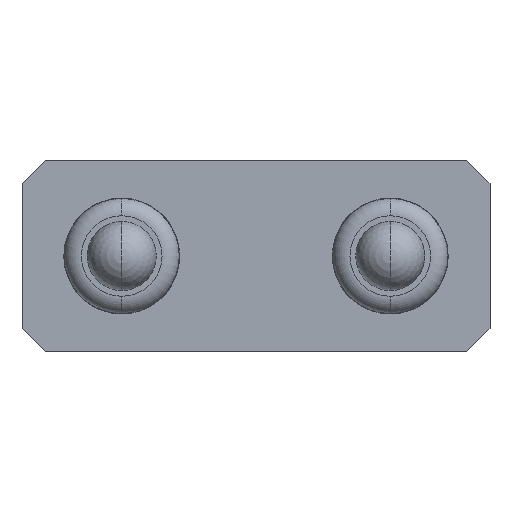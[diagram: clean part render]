
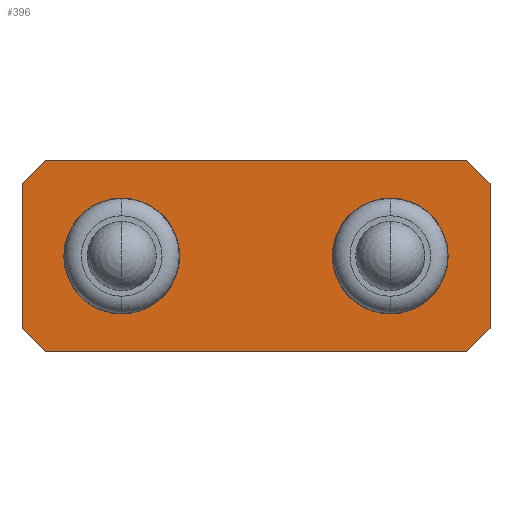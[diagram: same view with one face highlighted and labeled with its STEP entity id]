
A CAD part, left-side view. The second image highlights one B-rep face of the part: STEP entity #396.
In plain terms, the highlighted planar face has unit normal (-1, 0, 0).
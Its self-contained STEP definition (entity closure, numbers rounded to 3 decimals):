
#1=CARTESIAN_POINT('',(0.,-1.75,0.));
#2=DIRECTION('',(-1.,0.,0.));
#3=DIRECTION('',(0.,-1.,0.));
#4=AXIS2_PLACEMENT_3D('',#1,#2,#3);
#6=CARTESIAN_POINT('',(0.,-1.75,0.));
#7=DIRECTION('',(-1.,0.,0.));
#8=DIRECTION('',(0.,1.,0.));
#9=AXIS2_PLACEMENT_3D('',#6,#7,#8);
#11=CARTESIAN_POINT('',(0.,1.75,0.));
#12=DIRECTION('',(-1.,0.,0.));
#13=DIRECTION('',(0.,-1.,0.));
#14=AXIS2_PLACEMENT_3D('',#11,#12,#13);
#16=CARTESIAN_POINT('',(0.,1.75,0.));
#17=DIRECTION('',(-1.,0.,0.));
#18=DIRECTION('',(0.,1.,0.));
#19=AXIS2_PLACEMENT_3D('',#16,#17,#18);
#21=DIRECTION('',(0.,0.,1.));
#22=VECTOR('',#21,1.9);
#23=CARTESIAN_POINT('',(0.,3.05,-0.95));
#24=LINE('',#23,#22);
#25=DIRECTION('',(0.,-0.707,0.707));
#26=VECTOR('',#25,0.424);
#27=CARTESIAN_POINT('',(0.,3.05,0.95));
#28=LINE('',#27,#26);
#29=DIRECTION('',(0.,-1.,0.));
#30=VECTOR('',#29,5.5);
#31=CARTESIAN_POINT('',(0.,2.75,1.25));
#32=LINE('',#31,#30);
#33=DIRECTION('',(0.,-0.707,-0.707));
#34=VECTOR('',#33,0.424);
#35=CARTESIAN_POINT('',(0.,-2.75,1.25));
#36=LINE('',#35,#34);
#37=DIRECTION('',(0.,0.,-1.));
#38=VECTOR('',#37,1.9);
#39=CARTESIAN_POINT('',(0.,-3.05,0.95));
#40=LINE('',#39,#38);
#41=DIRECTION('',(0.,0.707,-0.707));
#42=VECTOR('',#41,0.424);
#43=CARTESIAN_POINT('',(0.,-3.05,-0.95));
#44=LINE('',#43,#42);
#45=DIRECTION('',(0.,1.,0.));
#46=VECTOR('',#45,5.5);
#47=CARTESIAN_POINT('',(0.,-2.75,-1.25));
#48=LINE('',#47,#46);
#49=DIRECTION('',(0.,0.707,0.707));
#50=VECTOR('',#49,0.424);
#51=CARTESIAN_POINT('',(0.,2.75,-1.25));
#52=LINE('',#51,#50);
#273=CARTESIAN_POINT('',(0.,-2.505,0.));
#274=CARTESIAN_POINT('',(0.,-0.995,0.));
#275=VERTEX_POINT('',#273);
#276=VERTEX_POINT('',#274);
#277=CARTESIAN_POINT('',(0.,0.995,0.));
#278=CARTESIAN_POINT('',(0.,2.505,0.));
#279=VERTEX_POINT('',#277);
#280=VERTEX_POINT('',#278);
#281=CARTESIAN_POINT('',(0.,3.05,-0.95));
#282=CARTESIAN_POINT('',(0.,3.05,0.95));
#283=VERTEX_POINT('',#281);
#284=VERTEX_POINT('',#282);
#285=CARTESIAN_POINT('',(0.,2.75,1.25));
#286=VERTEX_POINT('',#285);
#287=CARTESIAN_POINT('',(0.,-2.75,1.25));
#288=VERTEX_POINT('',#287);
#289=CARTESIAN_POINT('',(0.,-3.05,0.95));
#290=VERTEX_POINT('',#289);
#291=CARTESIAN_POINT('',(0.,-3.05,-0.95));
#292=VERTEX_POINT('',#291);
#293=CARTESIAN_POINT('',(0.,-2.75,-1.25));
#294=VERTEX_POINT('',#293);
#295=CARTESIAN_POINT('',(0.,2.75,-1.25));
#296=VERTEX_POINT('',#295);
#361=CARTESIAN_POINT('',(0.,0.,0.));
#362=DIRECTION('',(1.,0.,0.));
#363=DIRECTION('',(0.,-1.,0.));
#364=AXIS2_PLACEMENT_3D('',#361,#362,#363);
#365=PLANE('',#364);
#367=ORIENTED_EDGE('',*,*,#366,.T.);
#369=ORIENTED_EDGE('',*,*,#368,.T.);
#371=ORIENTED_EDGE('',*,*,#370,.T.);
#373=ORIENTED_EDGE('',*,*,#372,.T.);
#375=ORIENTED_EDGE('',*,*,#374,.T.);
#377=ORIENTED_EDGE('',*,*,#376,.T.);
#379=ORIENTED_EDGE('',*,*,#378,.T.);
#381=ORIENTED_EDGE('',*,*,#380,.T.);
#382=EDGE_LOOP('',(#367,#369,#371,#373,#375,#377,#379,#381));
#383=FACE_OUTER_BOUND('',#382,.F.);
#385=ORIENTED_EDGE('',*,*,#384,.T.);
#387=ORIENTED_EDGE('',*,*,#386,.T.);
#388=EDGE_LOOP('',(#385,#387));
#389=FACE_BOUND('',#388,.F.);
#391=ORIENTED_EDGE('',*,*,#390,.T.);
#393=ORIENTED_EDGE('',*,*,#392,.T.);
#394=EDGE_LOOP('',(#391,#393));
#395=FACE_BOUND('',#394,.F.);
#396=ADVANCED_FACE('',(#383,#389,#395),#365,.F.);
#5=CIRCLE('',#4,0.755);
#10=CIRCLE('',#9,0.755);
#15=CIRCLE('',#14,0.755);
#20=CIRCLE('',#19,0.755);
#366=EDGE_CURVE('',#283,#284,#24,.T.);
#368=EDGE_CURVE('',#284,#286,#28,.T.);
#370=EDGE_CURVE('',#286,#288,#32,.T.);
#372=EDGE_CURVE('',#288,#290,#36,.T.);
#374=EDGE_CURVE('',#290,#292,#40,.T.);
#376=EDGE_CURVE('',#292,#294,#44,.T.);
#378=EDGE_CURVE('',#294,#296,#48,.T.);
#380=EDGE_CURVE('',#296,#283,#52,.T.);
#384=EDGE_CURVE('',#279,#280,#15,.T.);
#386=EDGE_CURVE('',#280,#279,#20,.T.);
#390=EDGE_CURVE('',#275,#276,#5,.T.);
#392=EDGE_CURVE('',#276,#275,#10,.T.);
